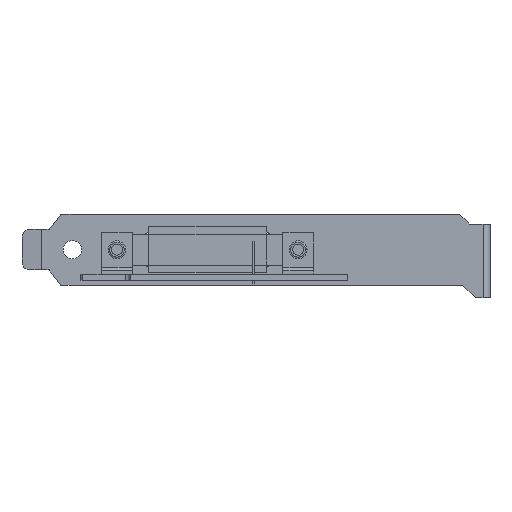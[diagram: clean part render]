
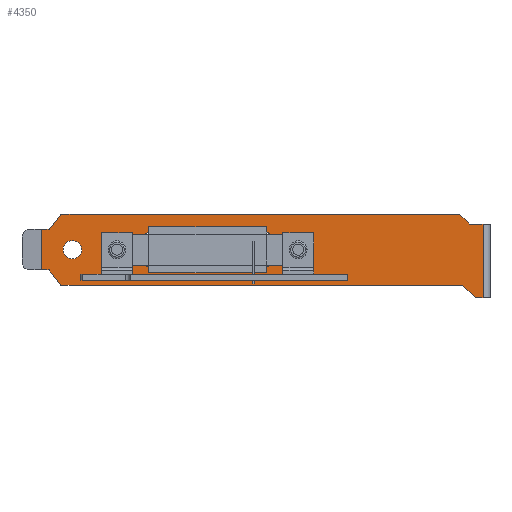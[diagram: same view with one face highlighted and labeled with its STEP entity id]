
A CAD part, left-side view. The second image highlights one B-rep face of the part: STEP entity #4350.
In plain terms, the highlighted planar face has unit normal (-1, 0, 0).
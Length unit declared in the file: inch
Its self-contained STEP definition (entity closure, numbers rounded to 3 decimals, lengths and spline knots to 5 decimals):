
#543=DIRECTION('',(0.,-1.,0.));
#544=VECTOR('',#543,0.28316);
#545=CARTESIAN_POINT('',(0.04938,-0.191,0.4705));
#546=LINE('',#545,#544);
#551=DIRECTION('',(0.,-1.,0.));
#552=VECTOR('',#551,0.28316);
#553=CARTESIAN_POINT('',(0.04938,-1.74984,0.4705));
#554=LINE('',#553,#552);
#563=DIRECTION('',(0.,0.,1.));
#564=VECTOR('',#563,0.412);
#565=CARTESIAN_POINT('',(0.04938,0.573,0.1065));
#566=LINE('',#565,#564);
#567=DIRECTION('',(0.,-1.,0.));
#568=VECTOR('',#567,0.074);
#569=CARTESIAN_POINT('',(0.04938,0.573,0.5185));
#570=LINE('',#569,#568);
#571=DIRECTION('',(0.,0.616,-0.788));
#572=VECTOR('',#571,0.1967);
#573=CARTESIAN_POINT('',(0.04938,0.3779,0.6735));
#574=LINE('',#573,#572);
#575=DIRECTION('',(0.,0.707,0.707));
#576=VECTOR('',#575,0.14142);
#577=CARTESIAN_POINT('',(0.04938,-3.774,0.5735));
#578=LINE('',#577,#576);
#579=DIRECTION('',(0.,1.,0.));
#580=VECTOR('',#579,0.137);
#581=CARTESIAN_POINT('',(0.04938,-3.911,0.5735));
#582=LINE('',#581,#580);
#583=DIRECTION('',(0.,0.,-1.));
#584=VECTOR('',#583,0.75);
#585=CARTESIAN_POINT('',(0.04938,-3.911,0.5735));
#586=LINE('',#585,#584);
#587=DIRECTION('',(0.,-0.707,-0.707));
#588=VECTOR('',#587,0.18102);
#589=CARTESIAN_POINT('',(0.04938,-3.705,-0.0485));
#590=LINE('',#589,#588);
#591=DIRECTION('',(0.,-1.,0.));
#592=VECTOR('',#591,4.0829);
#593=CARTESIAN_POINT('',(0.04938,0.3779,-0.0485));
#594=LINE('',#593,#592);
#595=DIRECTION('',(0.,-0.616,-0.788));
#596=VECTOR('',#595,0.1967);
#597=CARTESIAN_POINT('',(0.04938,0.499,0.1065));
#598=LINE('',#597,#596);
#599=DIRECTION('',(0.,-1.,0.));
#600=VECTOR('',#599,0.074);
#601=CARTESIAN_POINT('',(0.04938,0.573,0.1065));
#602=LINE('',#601,#600);
#603=CARTESIAN_POINT('',(0.04938,0.262,0.3125));
#604=DIRECTION('',(1.,0.,0.));
#605=DIRECTION('',(0.,1.,0.));
#606=AXIS2_PLACEMENT_3D('',#603,#604,#605);
#608=CARTESIAN_POINT('',(0.04938,0.262,0.3125));
#609=DIRECTION('',(1.,0.,0.));
#610=DIRECTION('',(0.,-1.,0.));
#611=AXIS2_PLACEMENT_3D('',#608,#609,#610);
#613=CARTESIAN_POINT('',(0.04938,-0.516,0.1975));
#614=DIRECTION('',(-1.,0.,0.));
#615=DIRECTION('',(0.,0.697,-0.717));
#616=AXIS2_PLACEMENT_3D('',#613,#614,#615);
#618=DIRECTION('',(0.,1.,0.));
#619=VECTOR('',#618,1.192);
#620=CARTESIAN_POINT('',(0.04938,-1.708,0.1375));
#621=LINE('',#620,#619);
#622=CARTESIAN_POINT('',(0.04938,-1.708,0.1975));
#623=DIRECTION('',(-1.,0.,0.));
#624=DIRECTION('',(0.,0.,-1.));
#625=AXIS2_PLACEMENT_3D('',#622,#623,#624);
#627=CARTESIAN_POINT('',(0.04938,-1.708,0.4275));
#628=DIRECTION('',(-1.,0.,0.));
#629=DIRECTION('',(0.,-0.697,0.717));
#630=AXIS2_PLACEMENT_3D('',#627,#628,#629);
#632=DIRECTION('',(0.,-1.,0.));
#633=VECTOR('',#632,1.192);
#634=CARTESIAN_POINT('',(0.04938,-0.516,0.4875));
#635=LINE('',#634,#633);
#636=CARTESIAN_POINT('',(0.04938,-0.516,0.4275));
#637=DIRECTION('',(-1.,0.,0.));
#638=DIRECTION('',(0.,0.,1.));
#639=AXIS2_PLACEMENT_3D('',#636,#637,#638);
#687=DIRECTION('',(0.,1.,0.));
#688=VECTOR('',#687,0.078);
#689=CARTESIAN_POINT('',(0.04938,-3.911,-0.1765));
#690=LINE('',#689,#688);
#1033=DIRECTION('',(0.,1.,0.));
#1034=VECTOR('',#1033,4.0519);
#1035=CARTESIAN_POINT('',(0.04938,-3.674,0.6735));
#1036=LINE('',#1035,#1034);
#1369=DIRECTION('',(0.,1.,0.));
#1370=VECTOR('',#1369,0.28316);
#1371=CARTESIAN_POINT('',(0.04938,-2.033,0.1545));
#1372=LINE('',#1371,#1370);
#1377=DIRECTION('',(0.,1.,0.));
#1378=VECTOR('',#1377,0.28316);
#1379=CARTESIAN_POINT('',(0.04938,-0.47416,0.1545));
#1380=LINE('',#1379,#1378);
#1533=CARTESIAN_POINT('',(0.04938,-0.191,0.3125));
#1534=DIRECTION('',(1.,0.,0.));
#1535=DIRECTION('',(0.,0.,-1.));
#1536=AXIS2_PLACEMENT_3D('',#1533,#1534,#1535);
#1878=CARTESIAN_POINT('',(0.04938,-2.033,0.3125));
#1879=DIRECTION('',(1.,0.,0.));
#1880=DIRECTION('',(0.,0.,1.));
#1881=AXIS2_PLACEMENT_3D('',#1878,#1879,#1880);
#3178=CARTESIAN_POINT('',(0.04938,-3.911,-0.1765));
#3180=VERTEX_POINT('',#3178);
#3181=CARTESIAN_POINT('',(0.04938,-3.911,0.5735));
#3183=VERTEX_POINT('',#3181);
#3185=CARTESIAN_POINT('',(0.04938,-3.774,0.5735));
#3186=VERTEX_POINT('',#3185);
#3187=CARTESIAN_POINT('',(0.04938,-3.674,0.6735));
#3188=VERTEX_POINT('',#3187);
#3189=CARTESIAN_POINT('',(0.04938,0.499,0.1065));
#3190=CARTESIAN_POINT('',(0.04938,0.3779,-0.0485));
#3191=VERTEX_POINT('',#3189);
#3192=VERTEX_POINT('',#3190);
#3193=CARTESIAN_POINT('',(0.04938,-3.705,-0.0485));
#3194=VERTEX_POINT('',#3193);
#3195=CARTESIAN_POINT('',(0.04938,-3.833,-0.1765));
#3196=VERTEX_POINT('',#3195);
#3197=CARTESIAN_POINT('',(0.04938,0.3779,0.6735));
#3198=CARTESIAN_POINT('',(0.04938,0.499,0.5185));
#3199=VERTEX_POINT('',#3197);
#3200=VERTEX_POINT('',#3198);
#3309=CARTESIAN_POINT('',(0.04938,0.3555,0.3125));
#3310=CARTESIAN_POINT('',(0.04938,0.1685,0.3125));
#3311=VERTEX_POINT('',#3309);
#3312=VERTEX_POINT('',#3310);
#3313=CARTESIAN_POINT('',(0.04938,0.573,0.1065));
#3314=VERTEX_POINT('',#3313);
#3315=CARTESIAN_POINT('',(0.04938,0.573,0.5185));
#3316=VERTEX_POINT('',#3315);
#3329=CARTESIAN_POINT('',(0.04938,-1.708,0.1375));
#3330=CARTESIAN_POINT('',(0.04938,-0.516,0.1375));
#3331=VERTEX_POINT('',#3329);
#3332=VERTEX_POINT('',#3330);
#3333=CARTESIAN_POINT('',(0.04938,-0.516,0.4875));
#3334=CARTESIAN_POINT('',(0.04938,-1.708,0.4875));
#3335=VERTEX_POINT('',#3333);
#3336=VERTEX_POINT('',#3334);
#3385=CARTESIAN_POINT('',(0.04938,-1.74984,0.4705));
#3386=VERTEX_POINT('',#3385);
#3387=CARTESIAN_POINT('',(0.04938,-0.47416,0.4705));
#3388=VERTEX_POINT('',#3387);
#3389=CARTESIAN_POINT('',(0.04938,-0.47416,0.1545));
#3390=VERTEX_POINT('',#3389);
#3391=CARTESIAN_POINT('',(0.04938,-1.74984,0.1545));
#3392=VERTEX_POINT('',#3391);
#3393=CARTESIAN_POINT('',(0.04938,-0.191,0.1545));
#3394=CARTESIAN_POINT('',(0.04938,-0.191,0.4705));
#3395=VERTEX_POINT('',#3393);
#3396=VERTEX_POINT('',#3394);
#3397=CARTESIAN_POINT('',(0.04938,-2.033,0.4705));
#3398=VERTEX_POINT('',#3397);
#3399=CARTESIAN_POINT('',(0.04938,-2.033,0.1545));
#3400=VERTEX_POINT('',#3399);
#4289=CARTESIAN_POINT('',(0.04938,-3.911,0.6735));
#4290=DIRECTION('',(1.,0.,0.));
#4291=DIRECTION('',(0.,1.,0.));
#4292=AXIS2_PLACEMENT_3D('',#4289,#4290,#4291);
#4293=PLANE('',#4292);
#4295=ORIENTED_EDGE('',*,*,#4294,.T.);
#4297=ORIENTED_EDGE('',*,*,#4296,.T.);
#4299=ORIENTED_EDGE('',*,*,#4298,.F.);
#4301=ORIENTED_EDGE('',*,*,#4300,.F.);
#4303=ORIENTED_EDGE('',*,*,#4302,.F.);
#4305=ORIENTED_EDGE('',*,*,#4304,.F.);
#4307=ORIENTED_EDGE('',*,*,#4306,.T.);
#4309=ORIENTED_EDGE('',*,*,#4308,.T.);
#4311=ORIENTED_EDGE('',*,*,#4310,.F.);
#4313=ORIENTED_EDGE('',*,*,#4312,.F.);
#4315=ORIENTED_EDGE('',*,*,#4314,.F.);
#4317=ORIENTED_EDGE('',*,*,#4316,.F.);
#4318=EDGE_LOOP('',(#4295,#4297,#4299,#4301,#4303,#4305,#4307,#4309,#4311,#4313,
#4315,#4317));
#4319=FACE_OUTER_BOUND('',#4318,.F.);
#4321=ORIENTED_EDGE('',*,*,#4320,.F.);
#4323=ORIENTED_EDGE('',*,*,#4322,.F.);
#4324=EDGE_LOOP('',(#4321,#4323));
#4325=FACE_BOUND('',#4324,.F.);
#4327=ORIENTED_EDGE('',*,*,#4326,.F.);
#4329=ORIENTED_EDGE('',*,*,#4328,.F.);
#4331=ORIENTED_EDGE('',*,*,#4330,.T.);
#4333=ORIENTED_EDGE('',*,*,#4332,.F.);
#4335=ORIENTED_EDGE('',*,*,#4334,.T.);
#4337=ORIENTED_EDGE('',*,*,#4336,.F.);
#4339=ORIENTED_EDGE('',*,*,#4338,.F.);
#4340=ORIENTED_EDGE('',*,*,#4271,.F.);
#4342=ORIENTED_EDGE('',*,*,#4341,.T.);
#4344=ORIENTED_EDGE('',*,*,#4343,.F.);
#4346=ORIENTED_EDGE('',*,*,#4345,.T.);
#4347=ORIENTED_EDGE('',*,*,#4263,.F.);
#4348=EDGE_LOOP('',(#4327,#4329,#4331,#4333,#4335,#4337,#4339,#4340,#4342,#4344,
#4346,#4347));
#4349=FACE_BOUND('',#4348,.F.);
#4350=ADVANCED_FACE('',(#4319,#4325,#4349),#4293,.F.);
#607=CIRCLE('',#606,0.0935);
#612=CIRCLE('',#611,0.0935);
#617=CIRCLE('',#616,0.06);
#626=CIRCLE('',#625,0.06);
#631=CIRCLE('',#630,0.06);
#640=CIRCLE('',#639,0.06);
#1537=CIRCLE('',#1536,0.158);
#1882=CIRCLE('',#1881,0.158);
#4263=EDGE_CURVE('',#3396,#3388,#546,.T.);
#4271=EDGE_CURVE('',#3386,#3398,#554,.T.);
#4294=EDGE_CURVE('',#3314,#3316,#566,.T.);
#4296=EDGE_CURVE('',#3316,#3200,#570,.T.);
#4298=EDGE_CURVE('',#3199,#3200,#574,.T.);
#4300=EDGE_CURVE('',#3188,#3199,#1036,.T.);
#4302=EDGE_CURVE('',#3186,#3188,#578,.T.);
#4304=EDGE_CURVE('',#3183,#3186,#582,.T.);
#4306=EDGE_CURVE('',#3183,#3180,#586,.T.);
#4308=EDGE_CURVE('',#3180,#3196,#690,.T.);
#4310=EDGE_CURVE('',#3194,#3196,#590,.T.);
#4312=EDGE_CURVE('',#3192,#3194,#594,.T.);
#4314=EDGE_CURVE('',#3191,#3192,#598,.T.);
#4316=EDGE_CURVE('',#3314,#3191,#602,.T.);
#4320=EDGE_CURVE('',#3311,#3312,#607,.T.);
#4322=EDGE_CURVE('',#3312,#3311,#612,.T.);
#4326=EDGE_CURVE('',#3395,#3396,#1537,.T.);
#4328=EDGE_CURVE('',#3390,#3395,#1380,.T.);
#4330=EDGE_CURVE('',#3390,#3332,#617,.T.);
#4332=EDGE_CURVE('',#3331,#3332,#621,.T.);
#4334=EDGE_CURVE('',#3331,#3392,#626,.T.);
#4336=EDGE_CURVE('',#3400,#3392,#1372,.T.);
#4338=EDGE_CURVE('',#3398,#3400,#1882,.T.);
#4341=EDGE_CURVE('',#3386,#3336,#631,.T.);
#4343=EDGE_CURVE('',#3335,#3336,#635,.T.);
#4345=EDGE_CURVE('',#3335,#3388,#640,.T.);
